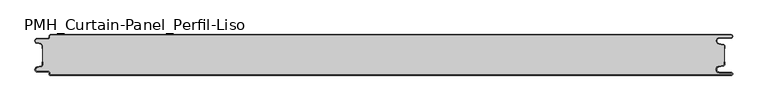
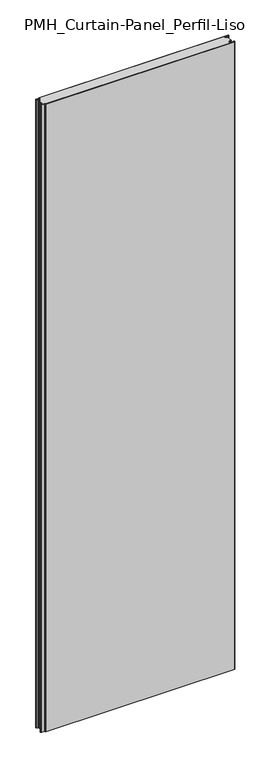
"""IFC4 building model written with IfcOpenShell, lengths in millimetres: plate geometry, PMH_Curtain-Panel_Perfil-Liso : ACH_PMH_Panel-Acústico-Sectorización_60M."""

import ifcopenshell
import ifcopenshell.guid

model = None  # the IFC model being written
_history = None  # IfcOwnerHistory: only IFC2X3 demands one
_inside = {}  # id of a spatial element -> (the spatial element, [elements in it])
_under = {}  # id of a project, library or spatial element -> (it, [spatial elements below it])
_declared = {}  # id of a project -> (the project, [libraries it declares])
_typed = {}  # id of a type object -> (the type object, [elements of that type])
_made_of = {}  # id of a material, layer set ... -> (it, [elements and type objects made of it])


def new_model(schema):
    """Start an empty IFC model of exactly this schema.

    Asked for "IFC4X3", IfcOpenShell would pick the latest addendum, in which some entities
    have other attributes; the version numbers below select the first issue.
    IFC2X3 requires an IfcOwnerHistory on every rooted entity: one is made here for all.
    """
    global model, _history
    if schema == "IFC4X3":
        model = ifcopenshell.file(schema_version=(4, 3, 0, 0))
    else:
        model = ifcopenshell.file(schema=schema)
    _inside.clear()
    _under.clear()
    _declared.clear()
    _typed.clear()
    _made_of.clear()
    _history = None
    if model.schema == "IFC2X3":
        org = make("IfcOrganization", Name="unknown")
        user = make(
            "IfcPersonAndOrganization",
            ThePerson=make("IfcPerson", FamilyName="unknown"),
            TheOrganization=org,
        )
        app = make(
            "IfcApplication",
            ApplicationDeveloper=org,
            Version="unknown",
            ApplicationFullName="unknown",
            ApplicationIdentifier="unknown",
        )
        _history = make(
            "IfcOwnerHistory",
            OwningUser=user,
            OwningApplication=app,
            ChangeAction="ADDED",
            CreationDate=0,
        )
    return model


def make(cls, **values):
    """One entity of the class cls with the attributes given. An attribute that is None is left unset."""
    return model.create_entity(
        cls, **{name: value for name, value in values.items() if value is not None}
    )


def rooted(cls, **values):
    """An entity with a GlobalId (a new one), such as an element, a storey or a relation."""
    return make(cls, GlobalId=ifcopenshell.guid.new(), OwnerHistory=_history, **values)


def si_unit(unit_type, name, prefix=None):
    """IfcSIUnit, for example si_unit("LENGTHUNIT", "METRE", prefix="MILLI")."""
    return make("IfcSIUnit", UnitType=unit_type, Prefix=prefix, Name=name)


def assignment(units):
    """IfcUnitAssignment: the units of a project."""
    return None if units is None else make("IfcUnitAssignment", Units=units)


def point(xyz):
    """IfcCartesianPoint."""
    return None if xyz is None else make("IfcCartesianPoint", Coordinates=xyz)


def direction(xyz):
    """IfcDirection."""
    return None if xyz is None else make("IfcDirection", DirectionRatios=xyz)


def frame(location, z_axis=None, x_axis=None):
    """IfcAxis2Placement3D, a coordinate frame: its origin and axes. An axis left out is left unset."""
    return make(
        "IfcAxis2Placement3D",
        Location=point(location),
        Axis=direction(z_axis),
        RefDirection=direction(x_axis),
    )


def frame_2d(location, x_axis=None):
    """IfcAxis2Placement2D, a coordinate frame in the plane: its origin and x axis."""
    return make(
        "IfcAxis2Placement2D", Location=point(location), RefDirection=direction(x_axis)
    )


def origin():
    """The frame at (0, 0, 0) with its axes left unset."""
    return frame((0.0, 0.0, 0.0))


def origin_with_axes():
    """The frame at (0, 0, 0) with the z axis (0, 0, 1) and the x axis (1, 0, 0) written out."""
    return frame((0.0, 0.0, 0.0), z_axis=(0.0, 0.0, 1.0), x_axis=(1.0, 0.0, 0.0))


def place(relative_to, where):
    """IfcLocalPlacement: puts the frame where relative to a parent placement (None: the world)."""
    return make(
        "IfcLocalPlacement", PlacementRelTo=relative_to, RelativePlacement=where
    )


def context(
    kind, dimensions, precision=None, world=None, true_north=None, identifier=None
):
    """IfcGeometricRepresentationContext, for example the 3D "Model" context."""
    return make(
        "IfcGeometricRepresentationContext",
        ContextIdentifier=identifier,
        ContextType=kind,
        CoordinateSpaceDimension=dimensions,
        Precision=precision,
        WorldCoordinateSystem=world,
        TrueNorth=true_north,
    )


def project(units=None, contexts=None):
    """IfcProject with its units and contexts."""
    return rooted(
        "IfcProject",
        Name="project",
        RepresentationContexts=contexts,
        UnitsInContext=assignment(units),
    )


def spatial(cls, under=None, at=None, **own):
    """A site, building, storey or space (cls), placed at a placement, below another one or the project."""
    s = rooted(cls, ObjectPlacement=at, **own)
    if under is not None:
        _under.setdefault(under.id(), (under, []))[1].append(s)
    return s


def polyline(points):
    """IfcPolyline through the points."""
    return make("IfcPolyline", Points=[point(p) for p in points])


def circle_curve(where, radius):
    """IfcCircle in the frame where."""
    return make("IfcCircle", Position=where, Radius=radius)


def trimmed(basis, trim1, trim2, sense, master):
    """IfcTrimmedCurve: the piece of a basis curve between two trims."""
    return make(
        "IfcTrimmedCurve",
        BasisCurve=basis,
        Trim1=trim1,
        Trim2=trim2,
        SenseAgreement=sense,
        MasterRepresentation=master,
    )


def segment(curve, same_sense, transition):
    """IfcCompositeCurveSegment."""
    return make(
        "IfcCompositeCurveSegment",
        Transition=transition,
        SameSense=same_sense,
        ParentCurve=curve,
    )


def composite_curve(segments, self_intersect=None):
    """IfcCompositeCurve: segments joined end to end."""
    return make("IfcCompositeCurve", Segments=segments, SelfIntersect=self_intersect)


def outline(outer, holes=None, kind="AREA"):
    """IfcArbitraryClosedProfileDef: a profile drawn as a closed curve; with holes, ...WithVoids."""
    if holes is None:
        return make("IfcArbitraryClosedProfileDef", ProfileType=kind, OuterCurve=outer)
    return make(
        "IfcArbitraryProfileDefWithVoids",
        ProfileType=kind,
        OuterCurve=outer,
        InnerCurves=holes,
    )


def extrude(swept, where, along, depth):
    """IfcExtrudedAreaSolid: the profile swept, set in the frame where, extruded along a direction by depth."""
    return make(
        "IfcExtrudedAreaSolid",
        SweptArea=swept,
        Position=where,
        ExtrudedDirection=direction(along),
        Depth=depth,
    )


def shape(context_of_items, identifier, shape_type, items):
    """IfcShapeRepresentation: the items that make up one representation, for example the "Body"."""
    return make(
        "IfcShapeRepresentation",
        ContextOfItems=context_of_items,
        RepresentationIdentifier=identifier,
        RepresentationType=shape_type,
        Items=items,
    )


def source(mapping_origin, context_of_items, identifier, shape_type, items):
    """IfcRepresentationMap: a shape defined once, which mapped items show again and again."""
    return make(
        "IfcRepresentationMap",
        MappingOrigin=mapping_origin,
        MappedRepresentation=shape(context_of_items, identifier, shape_type, items),
    )


def transform(
    local_origin,
    x_axis=None,
    y_axis=None,
    z_axis=None,
    scale=None,
    scale2=None,
    scale3=None,
    uniform=True,
):
    """IfcCartesianTransformationOperator3D, or its non-uniform kind. x_axis, y_axis, z_axis: its Axis1, 2, 3."""
    if uniform:
        return make(
            "IfcCartesianTransformationOperator3D",
            Axis1=direction(x_axis),
            Axis2=direction(y_axis),
            LocalOrigin=point(local_origin),
            Scale=scale,
            Axis3=direction(z_axis),
        )
    return make(
        "IfcCartesianTransformationOperator3DnonUniform",
        Axis1=direction(x_axis),
        Axis2=direction(y_axis),
        LocalOrigin=point(local_origin),
        Scale=scale,
        Axis3=direction(z_axis),
        Scale2=scale2,
        Scale3=scale3,
    )


def mapped(mapping_source, mapping_target):
    """IfcMappedItem: shows the shape of a source again, moved by a transform."""
    return make(
        "IfcMappedItem", MappingSource=mapping_source, MappingTarget=mapping_target
    )


def made_of(thing, what):
    """Note that an element or type object is made of a material, layer set ...; save() writes the relation."""
    if what is not None:
        _made_of.setdefault(what.id(), (what, []))[1].append(thing)
    return thing


def element(
    cls,
    number,
    at=None,
    inside=None,
    cuts=None,
    type_object=None,
    material=None,
    context=None,
    identifier="Body",
    shape_type=None,
    held_by="IfcProductDefinitionShape",
    body=None,
    shapes=None,
    **own,
):
    """One element of the class cls, such as IfcWall. Its Tag is "e" and its number.

    at: its placement. inside: the storey or other place that contains it. cuts: it is an
    opening in that element (IfcRelVoidsElement). A single representation is given by context,
    identifier, shape_type and body (its items); several are given by shapes. held_by: the class
    of the entity that holds the representations. save() writes the other relations.
    """
    e = rooted(cls, Tag="e%d" % number, ObjectPlacement=at, **own)
    if body is not None:
        shapes = [shape(context, identifier, shape_type, body)]
    if shapes is not None:
        e.Representation = make(held_by, Representations=shapes)
    if inside is not None:
        _inside.setdefault(inside.id(), (inside, []))[1].append(e)
    if cuts is not None:
        rooted(
            "IfcRelVoidsElement", RelatingBuildingElement=cuts, RelatedOpeningElement=e
        )
    if type_object is not None:
        _typed.setdefault(type_object.id(), (type_object, []))[1].append(e)
    return made_of(e, material)


def aggregate(whole, parts):
    """IfcRelAggregates: a whole, such as a stair, and the parts it consists of."""
    return rooted("IfcRelAggregates", RelatingObject=whole, RelatedObjects=parts)


def save(model, path):
    """Write the relations noted so far, then the file.

    IfcRelAggregates (storeys below a building ...), IfcRelContainedInSpatialStructure (elements
    in a storey), IfcRelDefinesByType, IfcRelAssociatesMaterial and IfcRelDeclares: one each for
    every whole, place, type object, material and project.
    """
    for whole, parts in _under.values():
        aggregate(whole, parts)
    for where, things in _inside.values():
        rooted(
            "IfcRelContainedInSpatialStructure",
            RelatedElements=things,
            RelatingStructure=where,
        )
    for kind, things in _typed.values():
        rooted("IfcRelDefinesByType", RelatedObjects=things, RelatingType=kind)
    for what, things in _made_of.values():
        rooted("IfcRelAssociatesMaterial", RelatedObjects=things, RelatingMaterial=what)
    for by, libraries in _declared.values():
        rooted("IfcRelDeclares", RelatingContext=by, RelatedDefinitions=libraries)
    model.write(path)


def plane_surface(at):
    """IfcPlane: the flat surface through the origin of the frame at, square to its z axis."""
    return make("IfcPlane", Position=at)


def cylinder_surface(at, radius):
    """IfcCylindricalSurface: all points at the distance radius from the z axis of the frame at."""
    return make("IfcCylindricalSurface", Position=at, Radius=radius)


def revolved_surface(curve, axis_point, axis_direction):
    """IfcSurfaceOfRevolution: the curve turned about the line through axis_point along axis_direction."""
    return make(
        "IfcSurfaceOfRevolution",
        SweptCurve=make("IfcArbitraryOpenProfileDef", ProfileType="CURVE", Curve=curve),
        AxisPosition=make("IfcAxis1Placement", Location=point(axis_point), Axis=direction(axis_direction)),
    )


def advanced_brep(points, edges, surfaces, faces):
    """IfcAdvancedBrep: a solid bounded by faces that lie on surfaces and meet in shared edges.

    An edge is (start, end): straight between two places in points (the first is 0);
    or (start, end, curve); or (start, end, curve, False) where it runs against its curve.
    A face is (place in surfaces, loops), or (place, loops, False) where it looks against
    its surface's normal. A loop lists edges by number (the first is 1), with a minus sign
    where the edge is run from its end to its start. The first loop is the outer one.
    """
    corners = [point(p) for p in points]
    vertices = [make("IfcVertexPoint", VertexGeometry=c) for c in corners]
    made = []
    for start, end, *more in edges:
        made.append(
            make(
                "IfcEdgeCurve",
                EdgeStart=vertices[start],
                EdgeEnd=vertices[end],
                EdgeGeometry=more[0] if more else make("IfcPolyline", Points=[corners[start], corners[end]]),
                SameSense=more[1] if len(more) > 1 else True,
            )
        )
    hull = []
    for where, loops, *sense in faces:
        bounds = []
        for j, loop in enumerate(loops):
            ring = [make("IfcOrientedEdge", EdgeElement=made[abs(k) - 1], Orientation=k > 0) for k in loop]
            bounds.append(
                make(
                    "IfcFaceOuterBound" if j == 0 else "IfcFaceBound",
                    Bound=make("IfcEdgeLoop", EdgeList=ring),
                    Orientation=True,
                )
            )
        hull.append(make("IfcAdvancedFace", Bounds=bounds, FaceSurface=surfaces[where], SameSense=sense[0] if sense else True))
    return make("IfcAdvancedBrep", Outer=make("IfcClosedShell", CfsFaces=hull))


def pmh_curtain_panel_perfil_liso_bc538edd(model_context):
    return source(origin(), model_context, "Body", "SolidModel", [
        advanced_brep(
        [(508.1, 0.0, 3500.0), (510.6, 2.5000002, 3500.0), (508.1, 5.0, 3500.0), (491.1, 5.0, 3500.0), (490.405407, 12.939231, 3500.0), (496.8514855, 14.0758491, 3500.0), (499.0, 16.6363492, 3500.0), (499.0, 20.0, 3500.0), (498.2, 20.0, 3500.0), (498.2, 16.6363492, 3500.0), (496.7125669, 14.8636953, 3500.0), (490.2664884, 13.7270771, 3500.0), (491.1, 4.2, 3500.0), (508.1, 4.2, 3500.0), (508.1, 0.8, 3500.0), (-487.4, 0.8, 3500.0), (-488.6, 2.0, 3500.0), (-488.6, 3.4, 3500.0), (-491.4, 6.2, 3500.0), (-506.9, 6.2, 3500.0), (-507.529863, 11.7282362, 3500.0), (-501.370137, 13.150321, 3500.0), (-499.2, 15.878557, 3500.0), (-499.2, 20.0, 3500.0), (-500.0, 20.0, 3500.0), (-500.0, 15.878557, 3500.0), (-501.5500978, 13.9298169, 3500.0), (-507.7098239, 12.507732, 3500.0), (-506.9, 5.4, 3500.0), (-491.4, 5.4, 3500.0), (-489.4, 3.4, 3500.0), (-489.4, 2.0, 3500.0), (-487.4, 0.0, 3500.0), (-487.4, 0.0, 0.0), (-489.4, 2.0, 0.0), (-489.4, 3.4, 0.0), (-491.4, 5.4, 0.0), (-506.9, 5.4, 0.0), (-507.7098239, 12.5077322, 0.0), (-501.5500979, 13.929817, 0.0), (-500.0, 15.878557, 0.0), (-500.0, 20.0, 0.0), (-499.2, 20.0, 0.0), (-499.2, 15.878557, 0.0), (-501.370137, 13.1503208, 0.0), (-507.529863, 11.728236, 0.0), (-506.9, 6.2, 0.0), (-491.4, 6.2, 0.0), (-488.6, 3.4, 0.0), (-488.6, 2.0, 0.0), (-487.4, 0.8, 0.0), (508.1, 0.8, 0.0), (508.1, 4.2, 0.0), (491.1, 4.2, 0.0), (490.2664884, 13.7270771, 0.0), (496.7125669, 14.8636953, 0.0), (498.2, 16.6363492, 0.0), (498.2, 20.0, 0.0), (499.0, 20.0, 0.0), (499.0, 16.6363492, 0.0), (496.8514855, 14.0758491, 0.0), (490.405407, 12.939231, 0.0), (491.1, 5.0, 0.0), (508.1, 5.0, 0.0), (510.6, 2.4999998, 0.0), (508.1, 0.0, 0.0)],
        [
            (0, 1, circle_curve(frame((508.1, 2.5, 3500.0), z_axis=(0.0, 0.0, 1.0), x_axis=(1.0, 0.0, 0.0)), 2.5)),
            (1, 2, circle_curve(frame((508.1, 2.5, 3500.0), z_axis=(0.0, 0.0, 1.0), x_axis=(1.0, 0.0, 0.0)), 2.5)),
            (2, 3),
            (3, 4, circle_curve(frame((491.1, 9.0, 3500.0), z_axis=(0.0, 0.0, -1.0), x_axis=(1.0, 0.0, 0.0)), 4.0)),
            (4, 5),
            (5, 6, circle_curve(frame((496.4, 16.6363492, 3500.0), z_axis=(0.0, 0.0, 1.0), x_axis=(1.0, 0.0, 0.0)), 2.6)),
            (6, 7),
            (7, 8),
            (8, 9),
            (9, 10, circle_curve(frame((496.4, 16.6363492, 3500.0), z_axis=(0.0, 0.0, -1.0), x_axis=(1.0, 0.0, 0.0)), 1.8)),
            (10, 11),
            (11, 12, circle_curve(frame((491.1, 9.0, 3500.0), z_axis=(0.0, 0.0, 1.0), x_axis=(1.0, 0.0, 0.0)), 4.8)),
            (12, 13),
            (13, 14, circle_curve(frame((508.1, 2.5, 3500.0), z_axis=(0.0, 0.0, -1.0), x_axis=(1.0, 0.0, 0.0)), 1.7)),
            (14, 15),
            (15, 16, circle_curve(frame((-487.4, 2.0, 3500.0), z_axis=(0.0, 0.0, -1.0), x_axis=(1.0, 0.0, 0.0)), 1.2)),
            (16, 17),
            (17, 18, circle_curve(frame((-491.4, 3.4, 3500.0), z_axis=(0.0, 0.0, 1.0), x_axis=(1.0, 0.0, 0.0)), 2.8)),
            (18, 19),
            (19, 20, circle_curve(frame((-506.9, 9.0, 3500.0), z_axis=(0.0, 0.0, -1.0), x_axis=(1.0, 0.0, 0.0)), 2.8)),
            (20, 21),
            (21, 22, circle_curve(frame((-502.0, 15.878557, 3500.0), z_axis=(0.0, 0.0, 1.0), x_axis=(1.0, 0.0, 0.0)), 2.8)),
            (22, 23),
            (23, 24),
            (24, 25),
            (25, 26, circle_curve(frame((-502.0, 15.878557, 3500.0), z_axis=(0.0, 0.0, -1.0), x_axis=(1.0, 0.0, 0.0)), 2.0)),
            (26, 27),
            (27, 28, circle_curve(frame((-506.9, 9.0, 3500.0), z_axis=(0.0, 0.0, 1.0), x_axis=(1.0, 0.0, 0.0)), 3.6)),
            (28, 29),
            (29, 30, circle_curve(frame((-491.4, 3.4, 3500.0), z_axis=(0.0, 0.0, -1.0), x_axis=(1.0, 0.0, 0.0)), 2.0)),
            (30, 31),
            (31, 32, circle_curve(frame((-487.4, 2.0, 3500.0), z_axis=(0.0, 0.0, 1.0), x_axis=(1.0, 0.0, 0.0)), 2.0)),
            (32, 0),
            (33, 34, circle_curve(frame((-487.4, 2.0, 0.0), z_axis=(0.0, 0.0, -1.0), x_axis=(1.0, 0.0, 0.0)), 2.0)),
            (34, 35),
            (35, 36, circle_curve(frame((-491.4, 3.4, 0.0), z_axis=(0.0, 0.0, 1.0), x_axis=(1.0, 0.0, 0.0)), 2.0)),
            (36, 37),
            (37, 38, circle_curve(frame((-506.9, 9.0, 0.0), z_axis=(0.0, 0.0, -1.0), x_axis=(1.0, 0.0, 0.0)), 3.6)),
            (38, 39),
            (39, 40, circle_curve(frame((-502.0, 15.878557, 0.0), z_axis=(0.0, 0.0, 1.0), x_axis=(1.0, 0.0, 0.0)), 2.0)),
            (40, 41),
            (41, 42),
            (42, 43),
            (43, 44, circle_curve(frame((-502.0, 15.878557, 0.0), z_axis=(0.0, 0.0, -1.0), x_axis=(1.0, 0.0, 0.0)), 2.8)),
            (44, 45),
            (45, 46, circle_curve(frame((-506.9, 9.0, 0.0), z_axis=(0.0, 0.0, 1.0), x_axis=(1.0, 0.0, 0.0)), 2.8)),
            (46, 47),
            (47, 48, circle_curve(frame((-491.4, 3.4, 0.0), z_axis=(0.0, 0.0, -1.0), x_axis=(1.0, 0.0, 0.0)), 2.8)),
            (48, 49),
            (49, 50, circle_curve(frame((-487.4, 2.0, 0.0), z_axis=(0.0, 0.0, 1.0), x_axis=(1.0, 0.0, 0.0)), 1.2)),
            (50, 51),
            (51, 52, circle_curve(frame((508.1, 2.5, 0.0), z_axis=(0.0, 0.0, 1.0), x_axis=(1.0, 0.0, 0.0)), 1.7)),
            (52, 53),
            (53, 54, circle_curve(frame((491.1, 9.0, 0.0), z_axis=(0.0, 0.0, -1.0), x_axis=(1.0, 0.0, 0.0)), 4.8)),
            (54, 55),
            (55, 56, circle_curve(frame((496.4, 16.6363492, 0.0), z_axis=(0.0, 0.0, 1.0), x_axis=(1.0, 0.0, 0.0)), 1.8)),
            (56, 57),
            (57, 58),
            (58, 59),
            (59, 60, circle_curve(frame((496.4, 16.6363492, 0.0), z_axis=(0.0, 0.0, -1.0), x_axis=(1.0, 0.0, 0.0)), 2.6)),
            (60, 61),
            (61, 62, circle_curve(frame((491.1, 9.0, 0.0), z_axis=(0.0, 0.0, 1.0), x_axis=(1.0, 0.0, 0.0)), 4.0)),
            (62, 63),
            (63, 64, circle_curve(frame((508.1, 2.5, 0.0), z_axis=(0.0, 0.0, -1.0), x_axis=(1.0, 0.0, 0.0)), 2.5)),
            (64, 65, circle_curve(frame((508.1, 2.5, 0.0), z_axis=(0.0, 0.0, -1.0), x_axis=(1.0, 0.0, 0.0)), 2.5)),
            (65, 33),
            (31, 34),
            (33, 32),
            (30, 35),
            (29, 36),
            (28, 37),
            (27, 38),
            (26, 39),
            (25, 40),
            (24, 41),
            (23, 42),
            (22, 43),
            (21, 44),
            (20, 45),
            (19, 46),
            (18, 47),
            (17, 48),
            (16, 49),
            (15, 50),
            (14, 51),
            (13, 52),
            (12, 53),
            (11, 54),
            (10, 55),
            (9, 56),
            (8, 57),
            (7, 58),
            (6, 59),
            (5, 60),
            (4, 61),
            (3, 62),
            (2, 63),
            (0, 65),
        ],
        [
            plane_surface(frame((-500.0, 0.0, 3500.0), z_axis=(0.0, 0.0, 1.0), x_axis=(0.0, -1.0, 0.0))),
            plane_surface(frame((-500.0, 0.0, 0.0), z_axis=(0.0, 0.0, -1.0), x_axis=(0.0, -1.0, 0.0))),
            cylinder_surface(frame((-487.4, 2.0, 3500.0), z_axis=(0.0, 0.0, 1.0), x_axis=(1.0, 0.0, 0.0)), 2.0),
            plane_surface(frame((-489.4, 2.0, 3500.0), z_axis=(-1.0, 0.0, 0.0), x_axis=(0.0, 0.0, -1.0))),
            revolved_surface(polyline([(-489.4, 3.4, 0.0), (-489.4, 3.4, 3500.0)]), (-491.4, 3.4, 3500.0), (0.0, 0.0, -1.0)),
            plane_surface(frame((-491.4, 5.4, 3500.0), z_axis=(0.0, -1.0, 0.0), x_axis=(0.0, 0.0, -1.0))),
            cylinder_surface(frame((-506.9, 9.0, 3500.0), z_axis=(0.0, 0.0, 1.0), x_axis=(1.0, 0.0, 0.0)), 3.6),
            plane_surface(frame((-507.7098239, 12.507732, 3500.0), z_axis=(-0.2249510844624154, 0.9743700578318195, 0.0), x_axis=(0.0, 0.0, -1.0))),
            revolved_surface(polyline([(-500.0, 15.878557, 0.0), (-500.0, 15.878557, 3500.0)]), (-502.0, 15.878557, 3500.0), (0.0, 0.0, -1.0)),
            plane_surface(frame((-500.0, 15.878557, 3500.0), z_axis=(-1.0, 0.0, 0.0), x_axis=(0.0, 0.0, -1.0))),
            plane_surface(frame((-500.0, 20.0, 3500.0), z_axis=(0.0, 1.0, 0.0), x_axis=(0.0, 0.0, -1.0))),
            plane_surface(frame((-499.2, 20.0, 3500.0), z_axis=(1.0, 0.0, 0.0), x_axis=(0.0, 0.0, -1.0))),
            cylinder_surface(frame((-502.0, 15.878557, 3500.0), z_axis=(0.0, 0.0, 1.0), x_axis=(1.0, 0.0, 0.0)), 2.8),
            plane_surface(frame((-501.370137, 13.150321, 3500.0), z_axis=(0.22495108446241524, -0.9743700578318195, 0.0), x_axis=(0.0, 0.0, -1.0))),
            revolved_surface(polyline([(-504.09999999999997, 9.0, 0.0), (-504.09999999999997, 9.0, 3500.0)]), (-506.9, 9.0, 3500.0), (0.0, 0.0, -1.0)),
            plane_surface(frame((-506.9, 6.2, 3500.0), z_axis=(0.0, 1.0, 0.0), x_axis=(0.0, 0.0, -1.0))),
            cylinder_surface(frame((-491.4, 3.4, 3500.0), z_axis=(0.0, 0.0, 1.0), x_axis=(1.0, 0.0, 0.0)), 2.8),
            plane_surface(frame((-488.6, 3.4, 3500.0), z_axis=(1.0, 0.0, 0.0), x_axis=(0.0, 0.0, -1.0))),
            revolved_surface(polyline([(-486.2, 2.0, 0.0), (-486.2, 2.0, 3500.0)]), (-487.4, 2.0, 3500.0), (0.0, 0.0, -1.0)),
            plane_surface(frame((-487.4, 0.8, 3500.0), z_axis=(0.0, 1.0, 0.0), x_axis=(0.0, 0.0, -1.0))),
            revolved_surface(polyline([(509.8, 2.5, 0.0), (509.8, 2.5, 3500.0)]), (508.1, 2.5, 3500.0), (0.0, 0.0, -1.0)),
            plane_surface(frame((508.1, 4.2, 3500.0), z_axis=(0.0, -1.0, 0.0), x_axis=(0.0, 0.0, -1.0))),
            cylinder_surface(frame((491.1, 9.0, 3500.0), z_axis=(0.0, 0.0, 1.0), x_axis=(1.0, 0.0, 0.0)), 4.8),
            plane_surface(frame((490.2664884, 13.7270771, 3500.0), z_axis=(-0.17364826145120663, 0.984807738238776, 0.0), x_axis=(0.0, 0.0, -1.0))),
            revolved_surface(polyline([(498.2, 16.6363492, 0.0), (498.2, 16.6363492, 3500.0)]), (496.4, 16.6363492, 3500.0), (0.0, 0.0, -1.0)),
            plane_surface(frame((498.2, 16.6363492, 3500.0), z_axis=(-1.0, 0.0, 0.0), x_axis=(0.0, 0.0, -1.0))),
            plane_surface(frame((498.2, 20.0, 3500.0), z_axis=(0.0, 1.0, 0.0), x_axis=(0.0, 0.0, -1.0))),
            plane_surface(frame((499.0, 20.0, 3500.0), z_axis=(1.0, 0.0, 0.0), x_axis=(0.0, 0.0, -1.0))),
            cylinder_surface(frame((496.4, 16.6363492, 3500.0), z_axis=(0.0, 0.0, 1.0), x_axis=(1.0, 0.0, 0.0)), 2.6),
            plane_surface(frame((496.8514855, 14.0758491, 3500.0), z_axis=(0.17364826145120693, -0.9848077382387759, 0.0), x_axis=(0.0, 0.0, -1.0))),
            revolved_surface(polyline([(495.1, 9.0, 0.0), (495.1, 9.0, 3500.0)]), (491.1, 9.0, 3500.0), (0.0, 0.0, -1.0)),
            plane_surface(frame((491.1, 5.0, 3500.0), z_axis=(0.0, 1.0, 0.0), x_axis=(0.0, 0.0, -1.0))),
            cylinder_surface(frame((508.1, 2.5, 3500.0), z_axis=(0.0, 0.0, 1.0), x_axis=(1.0, 0.0, 0.0)), 2.5),
            plane_surface(frame((490.5783588, 0.0, 3500.0), z_axis=(0.0, -1.0, 0.0), x_axis=(0.0, 0.0, -1.0))),
        ],
        [
            (0, [[1, 2, 3, 4, 5, 6, 7, 8, 9, 10, 11, 12, 13, 14, 15, 16, 17, 18, 19, 20, 21, 22, 23, 24, 25, 26, 27, 28, 29, 30, 31, 32, 33]]),
            (1, [[34, 35, 36, 37, 38, 39, 40, 41, 42, 43, 44, 45, 46, 47, 48, 49, 50, 51, 52, 53, 54, 55, 56, 57, 58, 59, 60, 61, 62, 63, 64, 65, 66]]),
            (2, [[67, -34, 68, -32]]),
            (3, [[69, -35, -67, -31]]),
            (4, [[70, -36, -69, -30]]),
            (5, [[71, -37, -70, -29]]),
            (6, [[72, -38, -71, -28]]),
            (7, [[73, -39, -72, -27]]),
            (8, [[74, -40, -73, -26]]),
            (9, [[75, -41, -74, -25]]),
            (10, [[76, -42, -75, -24]]),
            (11, [[77, -43, -76, -23]]),
            (12, [[78, -44, -77, -22]]),
            (13, [[79, -45, -78, -21]]),
            (14, [[80, -46, -79, -20]]),
            (15, [[81, -47, -80, -19]]),
            (16, [[82, -48, -81, -18]]),
            (17, [[83, -49, -82, -17]]),
            (18, [[84, -50, -83, -16]]),
            (19, [[85, -51, -84, -15]]),
            (20, [[86, -52, -85, -14]]),
            (21, [[87, -53, -86, -13]]),
            (22, [[88, -54, -87, -12]]),
            (23, [[89, -55, -88, -11]]),
            (24, [[90, -56, -89, -10]]),
            (25, [[91, -57, -90, -9]]),
            (26, [[92, -58, -91, -8]]),
            (27, [[93, -59, -92, -7]]),
            (28, [[94, -60, -93, -6]]),
            (29, [[95, -61, -94, -5]]),
            (30, [[96, -62, -95, -4]]),
            (31, [[97, -63, -96, -3]]),
            (32, [[-2, -1, 98, -65, -64, -97]]),
            (33, [[-68, -66, -98, -33]]),
        ],
    ),
        extrude(outline(composite_curve([segment(trimmed(circle_curve(frame_2d((-502.0, 44.1214426)), 2.8), [point((-499.2, 44.1214426))], [point((-501.370137, 46.8496788))], True, "CARTESIAN"), True, "CONTINUOUS"), segment(polyline([(-501.370137, 46.8496788), (-507.5298631, 48.2717638)]), True, "CONTINUOUS"), segment(trimmed(circle_curve(frame_2d((-506.9, 51.0)), 2.8), [point((-507.5298631, 48.2717638))], [point((-506.9, 53.8))], False, "CARTESIAN"), True, "CONTINUOUS"), segment(polyline([(-506.9, 53.8), (-491.4000001, 53.8)]), True, "CONTINUOUS"), segment(trimmed(circle_curve(frame_2d((-491.4000001, 56.6)), 2.8), [point((-491.4000001, 53.8))], [point((-488.6000001, 56.6))], True, "CARTESIAN"), True, "CONTINUOUS"), segment(polyline([(-488.6000001, 56.6), (-488.6000001, 58.0)]), True, "CONTINUOUS"), segment(trimmed(circle_curve(frame_2d((-487.4000001, 58.0)), 1.2), [point((-488.6000001, 58.0))], [point((-487.4000001, 59.2))], False, "CARTESIAN"), True, "CONTINUOUS"), segment(polyline([(-487.4000001, 59.2), (508.1, 59.2)]), True, "CONTINUOUS"), segment(trimmed(circle_curve(frame_2d((508.1, 57.5)), 1.7), [point((508.1, 59.2))], [point((508.1, 55.8))], False, "CARTESIAN"), True, "CONTINUOUS"), segment(polyline([(508.1, 55.8), (491.1, 55.8)]), True, "CONTINUOUS"), segment(trimmed(circle_curve(frame_2d((491.1, 51.0)), 4.8), [point((491.1, 55.8))], [point((490.2664883, 46.2729229))], True, "CARTESIAN"), True, "CONTINUOUS"), segment(polyline([(490.2664883, 46.2729229), (496.7125668, 45.1363047)]), True, "CONTINUOUS"), segment(trimmed(circle_curve(frame_2d((496.4, 43.3636508)), 1.8), [point((496.7125668, 45.1363047))], [point((498.2, 43.3636508))], False, "CARTESIAN"), True, "CONTINUOUS"), segment(polyline([(498.2, 43.3636508), (498.2, 16.6363492)]), True, "CONTINUOUS"), segment(trimmed(circle_curve(frame_2d((496.4, 16.6363492)), 1.8), [point((498.2, 16.6363492))], [point((496.7125668, 14.8636953))], False, "CARTESIAN"), True, "CONTINUOUS"), segment(polyline([(496.7125668, 14.8636953), (490.2664883, 13.7270771)]), True, "CONTINUOUS"), segment(trimmed(circle_curve(frame_2d((491.1, 9.0)), 4.8), [point((490.2664883, 13.7270771))], [point((491.1, 4.2))], True, "CARTESIAN"), True, "CONTINUOUS"), segment(polyline([(491.1, 4.2), (508.1, 4.2)]), True, "CONTINUOUS"), segment(trimmed(circle_curve(frame_2d((508.1, 2.5)), 1.7), [point((508.1, 4.2))], [point((508.1, 0.8))], False, "CARTESIAN"), True, "CONTINUOUS"), segment(polyline([(508.1, 0.8), (-487.4000001, 0.8)]), True, "CONTINUOUS"), segment(trimmed(circle_curve(frame_2d((-487.4000001, 2.0)), 1.2), [point((-487.4000001, 0.8))], [point((-488.6000001, 2.0))], False, "CARTESIAN"), True, "CONTINUOUS"), segment(polyline([(-488.6000001, 2.0), (-488.6000001, 3.4)]), True, "CONTINUOUS"), segment(trimmed(circle_curve(frame_2d((-491.4000001, 3.4)), 2.8), [point((-488.6000001, 3.4))], [point((-491.4000001, 6.2))], True, "CARTESIAN"), True, "CONTINUOUS"), segment(polyline([(-491.4000001, 6.2), (-506.9, 6.2)]), True, "CONTINUOUS"), segment(trimmed(circle_curve(frame_2d((-506.9, 9.0)), 2.8), [point((-506.9, 6.2))], [point((-507.5298631, 11.7282362))], False, "CARTESIAN"), True, "CONTINUOUS"), segment(polyline([(-507.5298631, 11.7282362), (-501.370137, 13.1503212)]), True, "CONTINUOUS"), segment(trimmed(circle_curve(frame_2d((-502.0, 15.8785573)), 2.8), [point((-501.370137, 13.1503212))], [point((-499.2, 15.8785573))], True, "CARTESIAN"), True, "CONTINUOUS"), segment(polyline([(-499.2, 15.8785573), (-499.2, 44.1214426)]), True, "CONTINUOUS")], self_intersect=False)), origin_with_axes(), (0.0, 0.0, 1.0), 3500.0),
        advanced_brep(
        [(-487.4, 60.0, 3500.0), (-489.4, 58.0, 3500.0), (-489.4, 56.6, 3500.0), (-491.4, 54.6, 3500.0), (-506.9, 54.6, 3500.0), (-507.7098239, 47.4922678, 3500.0), (-501.5500979, 46.070183, 3500.0), (-500.0, 44.121443, 3500.0), (-500.0, 40.0, 3500.0), (-499.2, 40.0, 3500.0), (-499.2, 44.121443, 3500.0), (-501.370137, 46.8496792, 3500.0), (-507.529863, 48.271764, 3500.0), (-506.9, 53.8, 3500.0), (-491.4, 53.8, 3500.0), (-488.6, 56.6, 3500.0), (-488.6, 58.0, 3500.0), (-487.4, 59.2, 3500.0), (508.1, 59.2, 3500.0), (508.1, 55.8, 3500.0), (491.1, 55.8, 3500.0), (490.2664884, 46.2729229, 3500.0), (496.7125669, 45.1363047, 3500.0), (498.2, 43.3636508, 3500.0), (498.2, 40.0, 3500.0), (499.0, 40.0, 3500.0), (499.0, 43.3636508, 3500.0), (496.8514855, 45.9241509, 3500.0), (490.405407, 47.060769, 3500.0), (491.1, 55.0, 3500.0), (508.1, 55.0, 3500.0), (510.6, 57.5000002, 3500.0), (508.1, 60.0, 3500.0), (508.1, 60.0, 0.0), (510.6, 57.4999998, 0.0), (508.1, 55.0, 0.0), (491.1, 55.0, 0.0), (490.405407, 47.060769, 0.0), (496.8514855, 45.9241509, 0.0), (499.0, 43.3636508, 0.0), (499.0, 40.0, 0.0), (498.2, 40.0, 0.0), (498.2, 43.3636508, 0.0), (496.7125669, 45.1363047, 0.0), (490.2664884, 46.2729229, 0.0), (491.1, 55.8, 0.0), (508.1, 55.8, 0.0), (508.1, 59.2, 0.0), (-487.4, 59.2, 0.0), (-488.6, 58.0, 0.0), (-488.6, 56.6, 0.0), (-491.4, 53.8, 0.0), (-506.9, 53.8, 0.0), (-507.529863, 48.2717638, 0.0), (-501.370137, 46.849679, 0.0), (-499.2, 44.121443, 0.0), (-499.2, 40.0, 0.0), (-500.0, 40.0, 0.0), (-500.0, 44.121443, 0.0), (-501.5500978, 46.0701831, 0.0), (-507.7098239, 47.492268, 0.0), (-506.9, 54.6, 0.0), (-491.4, 54.6, 0.0), (-489.4, 56.6, 0.0), (-489.4, 58.0, 0.0), (-487.4, 60.0, 0.0)],
        [
            (0, 1, circle_curve(frame((-487.4, 58.0, 3500.0), z_axis=(0.0, 0.0, 1.0), x_axis=(1.0, 0.0, 0.0)), 2.0)),
            (1, 2),
            (2, 3, circle_curve(frame((-491.4, 56.6, 3500.0), z_axis=(0.0, 0.0, -1.0), x_axis=(1.0, 0.0, 0.0)), 2.0)),
            (3, 4),
            (4, 5, circle_curve(frame((-506.9, 51.0, 3500.0), z_axis=(0.0, 0.0, 1.0), x_axis=(1.0, 0.0, 0.0)), 3.6)),
            (5, 6),
            (6, 7, circle_curve(frame((-502.0, 44.121443, 3500.0), z_axis=(0.0, 0.0, -1.0), x_axis=(1.0, 0.0, 0.0)), 2.0)),
            (7, 8),
            (8, 9),
            (9, 10),
            (10, 11, circle_curve(frame((-502.0, 44.121443, 3500.0), z_axis=(0.0, 0.0, 1.0), x_axis=(1.0, 0.0, 0.0)), 2.8)),
            (11, 12),
            (12, 13, circle_curve(frame((-506.9, 51.0, 3500.0), z_axis=(0.0, 0.0, -1.0), x_axis=(1.0, 0.0, 0.0)), 2.8)),
            (13, 14),
            (14, 15, circle_curve(frame((-491.4, 56.6, 3500.0), z_axis=(0.0, 0.0, 1.0), x_axis=(1.0, 0.0, 0.0)), 2.8)),
            (15, 16),
            (16, 17, circle_curve(frame((-487.4, 58.0, 3500.0), z_axis=(0.0, 0.0, -1.0), x_axis=(1.0, 0.0, 0.0)), 1.2)),
            (17, 18),
            (18, 19, circle_curve(frame((508.1, 57.5, 3500.0), z_axis=(0.0, 0.0, -1.0), x_axis=(1.0, 0.0, 0.0)), 1.7)),
            (19, 20),
            (20, 21, circle_curve(frame((491.1, 51.0, 3500.0), z_axis=(0.0, 0.0, 1.0), x_axis=(1.0, 0.0, 0.0)), 4.8)),
            (21, 22),
            (22, 23, circle_curve(frame((496.4, 43.3636508, 3500.0), z_axis=(0.0, 0.0, -1.0), x_axis=(1.0, 0.0, 0.0)), 1.8)),
            (23, 24),
            (24, 25),
            (25, 26),
            (26, 27, circle_curve(frame((496.4, 43.3636508, 3500.0), z_axis=(0.0, 0.0, 1.0), x_axis=(1.0, 0.0, 0.0)), 2.6)),
            (27, 28),
            (28, 29, circle_curve(frame((491.1, 51.0, 3500.0), z_axis=(0.0, 0.0, -1.0), x_axis=(1.0, 0.0, 0.0)), 4.0)),
            (29, 30),
            (30, 31, circle_curve(frame((508.1, 57.5, 3500.0), z_axis=(0.0, 0.0, 1.0), x_axis=(1.0, 0.0, 0.0)), 2.5)),
            (31, 32, circle_curve(frame((508.1, 57.5, 3500.0), z_axis=(0.0, 0.0, 1.0), x_axis=(1.0, 0.0, 0.0)), 2.5)),
            (32, 0),
            (33, 34, circle_curve(frame((508.1, 57.5, 0.0), z_axis=(0.0, 0.0, -1.0), x_axis=(1.0, 0.0, 0.0)), 2.5)),
            (34, 35, circle_curve(frame((508.1, 57.5, 0.0), z_axis=(0.0, 0.0, -1.0), x_axis=(1.0, 0.0, 0.0)), 2.5)),
            (35, 36),
            (36, 37, circle_curve(frame((491.1, 51.0, 0.0), z_axis=(0.0, 0.0, 1.0), x_axis=(1.0, 0.0, 0.0)), 4.0)),
            (37, 38),
            (38, 39, circle_curve(frame((496.4, 43.3636508, 0.0), z_axis=(0.0, 0.0, -1.0), x_axis=(1.0, 0.0, 0.0)), 2.6)),
            (39, 40),
            (40, 41),
            (41, 42),
            (42, 43, circle_curve(frame((496.4, 43.3636508, 0.0), z_axis=(0.0, 0.0, 1.0), x_axis=(1.0, 0.0, 0.0)), 1.8)),
            (43, 44),
            (44, 45, circle_curve(frame((491.1, 51.0, 0.0), z_axis=(0.0, 0.0, -1.0), x_axis=(1.0, 0.0, 0.0)), 4.8)),
            (45, 46),
            (46, 47, circle_curve(frame((508.1, 57.5, 0.0), z_axis=(0.0, 0.0, 1.0), x_axis=(1.0, 0.0, 0.0)), 1.7)),
            (47, 48),
            (48, 49, circle_curve(frame((-487.4, 58.0, 0.0), z_axis=(0.0, 0.0, 1.0), x_axis=(1.0, 0.0, 0.0)), 1.2)),
            (49, 50),
            (50, 51, circle_curve(frame((-491.4, 56.6, 0.0), z_axis=(0.0, 0.0, -1.0), x_axis=(1.0, 0.0, 0.0)), 2.8)),
            (51, 52),
            (52, 53, circle_curve(frame((-506.9, 51.0, 0.0), z_axis=(0.0, 0.0, 1.0), x_axis=(1.0, 0.0, 0.0)), 2.8)),
            (53, 54),
            (54, 55, circle_curve(frame((-502.0, 44.121443, 0.0), z_axis=(0.0, 0.0, -1.0), x_axis=(1.0, 0.0, 0.0)), 2.8)),
            (55, 56),
            (56, 57),
            (57, 58),
            (58, 59, circle_curve(frame((-502.0, 44.121443, 0.0), z_axis=(0.0, 0.0, 1.0), x_axis=(1.0, 0.0, 0.0)), 2.0)),
            (59, 60),
            (60, 61, circle_curve(frame((-506.9, 51.0, 0.0), z_axis=(0.0, 0.0, -1.0), x_axis=(1.0, 0.0, 0.0)), 3.6)),
            (61, 62),
            (62, 63, circle_curve(frame((-491.4, 56.6, 0.0), z_axis=(0.0, 0.0, 1.0), x_axis=(1.0, 0.0, 0.0)), 2.0)),
            (63, 64),
            (64, 65, circle_curve(frame((-487.4, 58.0, 0.0), z_axis=(0.0, 0.0, -1.0), x_axis=(1.0, 0.0, 0.0)), 2.0)),
            (65, 33),
            (32, 33),
            (65, 0),
            (30, 35),
            (29, 36),
            (28, 37),
            (27, 38),
            (26, 39),
            (25, 40),
            (24, 41),
            (23, 42),
            (22, 43),
            (21, 44),
            (20, 45),
            (19, 46),
            (18, 47),
            (17, 48),
            (16, 49),
            (15, 50),
            (14, 51),
            (13, 52),
            (12, 53),
            (11, 54),
            (10, 55),
            (9, 56),
            (8, 57),
            (7, 58),
            (6, 59),
            (5, 60),
            (4, 61),
            (3, 62),
            (2, 63),
            (1, 64),
        ],
        [
            plane_surface(frame((-500.0, 60.0, 3500.0), z_axis=(0.0, 0.0, 1.0), x_axis=(0.0, -1.0, 0.0))),
            plane_surface(frame((-500.0, 60.0, 0.0), z_axis=(0.0, 0.0, -1.0), x_axis=(0.0, -1.0, 0.0))),
            plane_surface(frame((490.5783588, 60.0, 3500.0), z_axis=(0.0, 1.0, 0.0), x_axis=(0.0, 0.0, -1.0))),
            cylinder_surface(frame((508.1, 57.5, 3500.0), z_axis=(0.0, 0.0, 1.0), x_axis=(1.0, 0.0, 0.0)), 2.5),
            plane_surface(frame((508.1, 55.0, 3500.0), z_axis=(0.0, -1.0, 0.0), x_axis=(0.0, 0.0, -1.0))),
            revolved_surface(polyline([(495.1, 51.0, 0.0), (495.1, 51.0, 3500.0)]), (491.1, 51.0, 3500.0), (0.0, 0.0, -1.0)),
            plane_surface(frame((490.405407, 47.060769, 3500.0), z_axis=(0.17364826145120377, 0.9848077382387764, 0.0), x_axis=(0.0, 0.0, -1.0))),
            cylinder_surface(frame((496.4, 43.3636508, 3500.0), z_axis=(0.0, 0.0, 1.0), x_axis=(1.0, 0.0, 0.0)), 2.6),
            plane_surface(frame((499.0, 43.3636508, 3500.0), z_axis=(1.0, 0.0, 0.0), x_axis=(0.0, 0.0, -1.0))),
            plane_surface(frame((499.0, 40.0, 3500.0), z_axis=(0.0, -1.0, 0.0), x_axis=(0.0, 0.0, -1.0))),
            plane_surface(frame((498.2, 40.0, 3500.0), z_axis=(-1.0, 0.0, 0.0), x_axis=(0.0, 0.0, -1.0))),
            revolved_surface(polyline([(498.2, 43.3636508, 0.0), (498.2, 43.3636508, 3500.0)]), (496.4, 43.3636508, 3500.0), (0.0, 0.0, -1.0)),
            plane_surface(frame((496.7125669, 45.1363047, 3500.0), z_axis=(-0.17364826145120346, -0.9848077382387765, 0.0), x_axis=(0.0, 0.0, -1.0))),
            cylinder_surface(frame((491.1, 51.0, 3500.0), z_axis=(0.0, 0.0, 1.0), x_axis=(1.0, 0.0, 0.0)), 4.8),
            plane_surface(frame((491.1, 55.8, 3500.0), z_axis=(0.0, 1.0, 0.0), x_axis=(0.0, 0.0, -1.0))),
            revolved_surface(polyline([(509.8, 57.5, 0.0), (509.8, 57.5, 3500.0)]), (508.1, 57.5, 3500.0), (0.0, 0.0, -1.0)),
            plane_surface(frame((508.1, 59.2, 3500.0), z_axis=(0.0, -1.0, 0.0), x_axis=(0.0, 0.0, -1.0))),
            revolved_surface(polyline([(-486.2, 58.0, 0.0), (-486.2, 58.0, 3500.0)]), (-487.4, 58.0, 3500.0), (0.0, 0.0, -1.0)),
            plane_surface(frame((-488.6, 58.0, 3500.0), z_axis=(1.0, 0.0, 0.0), x_axis=(0.0, 0.0, -1.0))),
            cylinder_surface(frame((-491.4, 56.6, 3500.0), z_axis=(0.0, 0.0, 1.0), x_axis=(1.0, 0.0, 0.0)), 2.8),
            plane_surface(frame((-491.4, 53.8, 3500.0), z_axis=(0.0, -1.0, 0.0), x_axis=(0.0, 0.0, -1.0))),
            revolved_surface(polyline([(-504.09999999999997, 51.0, 0.0), (-504.09999999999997, 51.0, 3500.0)]), (-506.9, 51.0, 3500.0), (0.0, 0.0, -1.0)),
            plane_surface(frame((-507.529863, 48.271764, 3500.0), z_axis=(0.2249510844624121, 0.9743700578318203, 0.0), x_axis=(0.0, 0.0, -1.0))),
            cylinder_surface(frame((-502.0, 44.121443, 3500.0), z_axis=(0.0, 0.0, 1.0), x_axis=(1.0, 0.0, 0.0)), 2.8),
            plane_surface(frame((-499.2, 44.121443, 3500.0), z_axis=(1.0, 0.0, 0.0), x_axis=(0.0, 0.0, -1.0))),
            plane_surface(frame((-499.2, 40.0, 3500.0), z_axis=(0.0, -1.0, 0.0), x_axis=(0.0, 0.0, -1.0))),
            plane_surface(frame((-500.0, 40.0, 3500.0), z_axis=(-1.0, 0.0, 0.0), x_axis=(0.0, 0.0, -1.0))),
            revolved_surface(polyline([(-500.0, 44.121443, 0.0), (-500.0, 44.121443, 3500.0)]), (-502.0, 44.121443, 3500.0), (0.0, 0.0, -1.0)),
            plane_surface(frame((-501.5500979, 46.070183, 3500.0), z_axis=(-0.22495108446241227, -0.9743700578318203, 0.0), x_axis=(0.0, 0.0, -1.0))),
            cylinder_surface(frame((-506.9, 51.0, 3500.0), z_axis=(0.0, 0.0, 1.0), x_axis=(1.0, 0.0, 0.0)), 3.6),
            plane_surface(frame((-506.9, 54.6, 3500.0), z_axis=(0.0, 1.0, 0.0), x_axis=(0.0, 0.0, -1.0))),
            revolved_surface(polyline([(-489.4, 56.6, 0.0), (-489.4, 56.6, 3500.0)]), (-491.4, 56.6, 3500.0), (0.0, 0.0, -1.0)),
            plane_surface(frame((-489.4, 56.6, 3500.0), z_axis=(-1.0, 0.0, 0.0), x_axis=(0.0, 0.0, -1.0))),
            cylinder_surface(frame((-487.4, 58.0, 3500.0), z_axis=(0.0, 0.0, 1.0), x_axis=(1.0, 0.0, 0.0)), 2.0),
        ],
        [
            (0, [[1, 2, 3, 4, 5, 6, 7, 8, 9, 10, 11, 12, 13, 14, 15, 16, 17, 18, 19, 20, 21, 22, 23, 24, 25, 26, 27, 28, 29, 30, 31, 32, 33]]),
            (1, [[34, 35, 36, 37, 38, 39, 40, 41, 42, 43, 44, 45, 46, 47, 48, 49, 50, 51, 52, 53, 54, 55, 56, 57, 58, 59, 60, 61, 62, 63, 64, 65, 66]]),
            (2, [[67, -66, 68, -33]]),
            (3, [[-32, -31, 69, -35, -34, -67]]),
            (4, [[70, -36, -69, -30]]),
            (5, [[71, -37, -70, -29]]),
            (6, [[72, -38, -71, -28]]),
            (7, [[73, -39, -72, -27]]),
            (8, [[74, -40, -73, -26]]),
            (9, [[75, -41, -74, -25]]),
            (10, [[76, -42, -75, -24]]),
            (11, [[77, -43, -76, -23]]),
            (12, [[78, -44, -77, -22]]),
            (13, [[79, -45, -78, -21]]),
            (14, [[80, -46, -79, -20]]),
            (15, [[81, -47, -80, -19]]),
            (16, [[82, -48, -81, -18]]),
            (17, [[83, -49, -82, -17]]),
            (18, [[84, -50, -83, -16]]),
            (19, [[85, -51, -84, -15]]),
            (20, [[86, -52, -85, -14]]),
            (21, [[87, -53, -86, -13]]),
            (22, [[88, -54, -87, -12]]),
            (23, [[89, -55, -88, -11]]),
            (24, [[90, -56, -89, -10]]),
            (25, [[91, -57, -90, -9]]),
            (26, [[92, -58, -91, -8]]),
            (27, [[93, -59, -92, -7]]),
            (28, [[94, -60, -93, -6]]),
            (29, [[95, -61, -94, -5]]),
            (30, [[96, -62, -95, -4]]),
            (31, [[97, -63, -96, -3]]),
            (32, [[98, -64, -97, -2]]),
            (33, [[-68, -65, -98, -1]]),
        ],
    ),
    ])


if __name__ == "__main__":
    model = new_model("IFC4")
    model_context = context("Model", 3, world=origin())
    ifc_project = project(units=[si_unit("LENGTHUNIT", "METRE", prefix="MILLI")], contexts=[model_context])
    site = spatial("IfcSite", under=ifc_project)
    building = spatial("IfcBuilding", under=site)
    placement = place(None, origin())
    pmh_curtain_panel_perfil_liso_shape = pmh_curtain_panel_perfil_liso_bc538edd(model_context)
    element("IfcPlate", 1, ObjectType="PMH_Curtain-Panel_Perfil-Liso : ACH_PMH_Panel-Acústico-Sectorización_60M", at=placement, inside=building, context=model_context, shape_type="MappedRepresentation", body=[
        mapped(pmh_curtain_panel_perfil_liso_shape, transform((0.0, 0.0, 0.0), x_axis=(1.0, 0.0, 0.0), y_axis=(0.0, 1.0, 0.0), z_axis=(0.0, 0.0, 1.0))),
    ])
    save(model, "model.ifc")
